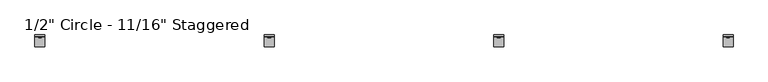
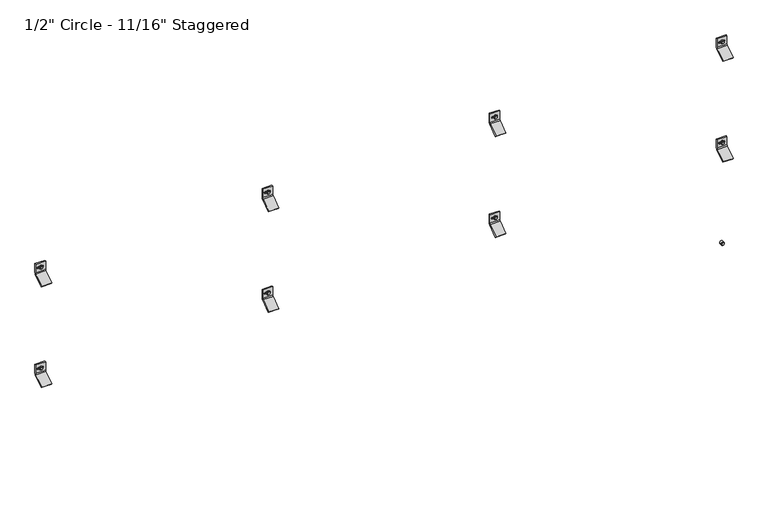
"""IFC4 building model written with IfcOpenShell, lengths in millimetres: plate geometry."""

from ifc_helpers import new_model, si_unit, point, frame, frame_2d, origin, place, context, project, spatial, polyline, circle_curve, trimmed, segment, composite_curve, outline, extrude, source, transform, mapped, element, save
from ifc_brep_helpers import plane_surface, cylinder_surface, revolved_surface, advanced_brep


def plate_257bfe62(model_context):
    return source(origin(), model_context, "Body", "SolidModel", [
        extrude(outline(polyline([(1395.4295323, 1299.9070034), (1391.0838197, 1302.4160017), (1391.0838197, 1307.4339983), (1395.4295323, 1309.9429966), (1399.7752448, 1307.4339983), (1399.7752448, 1302.4160017), (1395.4295323, 1299.9070034)])), frame((0.0, -58.7607779, 0.0), z_axis=(0.0, 1.0, 0.0), x_axis=(0.0, 0.0, 1.0)), (0.0, 0.0, 1.0), 11.1357779),
        extrude(outline(composite_curve([segment(trimmed(circle_curve(frame_2d((1395.5228392, 1304.925)), 6.35), [point((1395.5228392, 1311.275))], [point((1395.5228392, 1298.575))], False, "CARTESIAN"), True, "CONTINUOUS"), segment(trimmed(circle_curve(frame_2d((1395.5228392, 1304.925)), 6.35), [point((1395.5228392, 1298.575))], [point((1395.5228392, 1311.275))], False, "CARTESIAN"), True, "CONTINUOUS")], self_intersect=False)), frame((0.0, -57.0817743, 0.0), z_axis=(0.0, 1.0, 0.0), x_axis=(0.0, 0.0, 1.0)), (0.0, 0.0, 1.0), 9.4567743),
        advanced_brep(
        [(1285.875, -47.625, 1378.2802202), (1285.875, -51.2819443, 1370.6181877), (1285.875, -89.5163624, 1343.84616), (1285.875, -92.9330442, 1347.2628418), (1285.875, -54.3526876, 1374.2770983), (1285.875, -52.4002, 1378.2802911), (1285.875, -52.4002, 1412.4729053), (1285.875, -47.625, 1412.4729053), (1323.975, -47.625, 1378.2802202), (1323.975, -47.625, 1412.4729053), (1323.975, -52.4002, 1412.4729053), (1323.975, -52.4002, 1378.2802911), (1323.975, -54.3526876, 1374.2770983), (1323.975, -92.9330442, 1347.2628418), (1323.975, -89.5163624, 1343.84616), (1323.975, -51.2819443, 1370.6181877), (1311.6661889, -52.4002, 1398.4276891), (1311.6661889, -52.4002, 1392.0776891), (1295.4383287, -52.4002, 1392.0776891), (1295.4383287, -52.4002, 1398.4276891), (1311.6661889, -47.625, 1392.0776891), (1311.6661889, -47.625, 1398.4276891), (1295.4383287, -47.625, 1398.4276891), (1295.4383287, -47.625, 1392.0776891)],
        [
            (0, 1, circle_curve(frame((1285.875, -57.4802202, 1378.2802202), z_axis=(-1.0, 0.0, 0.0), x_axis=(0.0, -1.0, 0.0)), 9.8552202)),
            (1, 2),
            (2, 3),
            (3, 4),
            (4, 5, circle_curve(frame((1285.875, -57.4803246, 1378.2802911), z_axis=(1.0, 0.0, 0.0), x_axis=(0.0, -1.0, 0.0)), 5.0801246)),
            (5, 6),
            (6, 7),
            (7, 0),
            (8, 9),
            (9, 10),
            (10, 11),
            (11, 12, circle_curve(frame((1323.975, -57.4803246, 1378.2802911), z_axis=(-1.0, 0.0, 0.0), x_axis=(0.0, -1.0, 0.0)), 5.0801246)),
            (12, 13),
            (13, 14),
            (14, 15),
            (15, 8, circle_curve(frame((1323.975, -57.4802202, 1378.2802202), z_axis=(1.0, 0.0, 0.0), x_axis=(0.0, -1.0, 0.0)), 9.8552202)),
            (4, 12),
            (11, 5),
            (10, 6),
            (16, 17, circle_curve(frame((1311.6661889, -52.4002, 1395.2526891), z_axis=(0.0, 1.0, 0.0), x_axis=(0.0, 0.0, -1.0)), 3.175)),
            (17, 18),
            (18, 19, circle_curve(frame((1295.4383287, -52.4002, 1395.2526891), z_axis=(0.0, 1.0, 0.0), x_axis=(0.0, 0.0, -1.0)), 3.175)),
            (19, 16),
            (9, 7),
            (8, 0),
            (20, 21, circle_curve(frame((1311.6661889, -47.625, 1395.2526891), z_axis=(0.0, -1.0, 0.0), x_axis=(0.0, 0.0, -1.0)), 3.175)),
            (21, 22),
            (22, 23, circle_curve(frame((1295.4383287, -47.625, 1395.2526891), z_axis=(0.0, -1.0, 0.0), x_axis=(0.0, 0.0, -1.0)), 3.175)),
            (23, 20),
            (15, 1),
            (20, 17),
            (16, 21),
            (19, 22),
            (18, 23),
            (14, 2),
            (13, 3),
        ],
        [
            plane_surface(frame((1285.875, -67.3354404, 1378.2802202), z_axis=(-1.0, 0.0, 0.0), x_axis=(0.0, 0.0, 1.0))),
            plane_surface(frame((1323.975, -67.3354404, 1378.2802202), z_axis=(1.0, 0.0, 0.0), x_axis=(0.0, 0.0, -1.0))),
            revolved_surface(polyline([(1323.975, -62.5604492, 1378.2802911), (1285.875, -62.5604492, 1378.2802911)]), (1323.975, -57.4803246, 1378.2802911), (1.0, 0.0, 0.0)),
            plane_surface(frame((1285.875, -52.4002, 1378.2802911), z_axis=(0.0, -1.0, 0.0), x_axis=(1.0, 0.0, 0.0))),
            plane_surface(frame((1285.875, -52.4002, 1412.4729053), z_axis=(0.0, 0.0, 1.0), x_axis=(1.0, 0.0, 0.0))),
            plane_surface(frame((1285.875, -47.625, 1412.4729053), z_axis=(0.0, 1.0, 6.99569853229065e-12), x_axis=(1.0, 0.0, 0.0))),
            cylinder_surface(frame((1323.975, -57.4802202, 1378.2802202), z_axis=(-1.0, 0.0, 0.0), x_axis=(0.0, -1.0, 0.0)), 9.8552202),
            revolved_surface(polyline([(1311.6661889, -52.4002, 1392.0776891), (1311.6661889, -47.625, 1392.0776891)]), (1311.6661889, -25.6669948, 1395.2526891), (0.0, -1.0, 0.0)),
            plane_surface(frame((1311.6661889, -86.677982, 1398.4276891), z_axis=(0.0, 0.0, -1.0), x_axis=(0.0, 1.0, 0.0))),
            revolved_surface(polyline([(1295.4383287, -52.4002, 1392.0776891), (1295.4383287, -47.625, 1392.0776891)]), (1295.4383287, -25.6669948, 1395.2526891), (0.0, -1.0, 0.0)),
            plane_surface(frame((1295.4383287, -86.677982, 1392.0776891), z_axis=(-2.7237720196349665e-11, 0.0, 1.0), x_axis=(0.0, 1.0, 0.0))),
            plane_surface(frame((1285.875, -51.2819443, 1370.6181877), z_axis=(0.0, 0.5735764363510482, -0.8191520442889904), x_axis=(1.0, 0.0, 0.0))),
            plane_surface(frame((1285.875, -89.5163624, 1343.84616), z_axis=(0.0, -0.7071067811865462, -0.7071067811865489), x_axis=(1.0, 0.0, 0.0))),
            plane_surface(frame((1285.875, -92.9330442, 1347.2628418), z_axis=(0.0, -0.5735764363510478, 0.8191520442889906), x_axis=(1.0, 0.0, 0.0))),
        ],
        [
            (0, [[1, 2, 3, 4, 5, 6, 7, 8]]),
            (1, [[9, 10, 11, 12, 13, 14, 15, 16]]),
            (2, [[-5, 17, -12, 18]]),
            (3, [[-6, -18, -11, 19], [20, 21, 22, 23]]),
            (4, [[-7, -19, -10, 24]]),
            (5, [[-8, -24, -9, 25], [26, 27, 28, 29]]),
            (6, [[-1, -25, -16, 30]]),
            (7, [[31, -20, 32, -26]]),
            (8, [[-32, -23, 33, -27]]),
            (9, [[-33, -22, 34, -28]]),
            (10, [[-31, -29, -34, -21]]),
            (11, [[-2, -30, -15, 35]]),
            (12, [[-3, -35, -14, 36]]),
            (13, [[-4, -36, -13, -17]]),
        ],
    ),
        extrude(outline(polyline([(1395.4295323, 429.9570034), (1391.0838197, 432.4660017), (1391.0838197, 437.4839983), (1395.4295323, 439.9929966), (1399.7752448, 437.4839983), (1399.7752448, 432.4660017), (1395.4295323, 429.9570034)])), frame((0.0, -58.7607779, 0.0), z_axis=(0.0, 1.0, 0.0), x_axis=(0.0, 0.0, 1.0)), (0.0, 0.0, 1.0), 11.1357779),
        extrude(outline(composite_curve([segment(trimmed(circle_curve(frame_2d((1395.5228392, 434.975)), 6.35), [point((1395.5228392, 441.325))], [point((1395.5228392, 428.625))], False, "CARTESIAN"), True, "CONTINUOUS"), segment(trimmed(circle_curve(frame_2d((1395.5228392, 434.975)), 6.35), [point((1395.5228392, 428.625))], [point((1395.5228392, 441.325))], False, "CARTESIAN"), True, "CONTINUOUS")], self_intersect=False)), frame((0.0, -57.0817743, 0.0), z_axis=(0.0, 1.0, 0.0), x_axis=(0.0, 0.0, 1.0)), (0.0, 0.0, 1.0), 9.4567743),
        advanced_brep(
        [(415.925, -47.625, 1378.2802202), (415.925, -51.2819443, 1370.6181877), (415.925, -89.5163624, 1343.84616), (415.925, -92.9330442, 1347.2628418), (415.925, -54.3526876, 1374.2770983), (415.925, -52.4002, 1378.2802911), (415.925, -52.4002, 1412.4729053), (415.925, -47.625, 1412.4729053), (454.025, -47.625, 1378.2802202), (454.025, -47.625, 1412.4729053), (454.025, -52.4002, 1412.4729053), (454.025, -52.4002, 1378.2802911), (454.025, -54.3526876, 1374.2770983), (454.025, -92.9330442, 1347.2628418), (454.025, -89.5163624, 1343.84616), (454.025, -51.2819443, 1370.6181877), (441.7161889, -52.4002, 1398.4276891), (441.7161889, -52.4002, 1392.0776891), (425.4883287, -52.4002, 1392.0776891), (425.4883287, -52.4002, 1398.4276891), (441.7161889, -47.625, 1392.0776891), (441.7161889, -47.625, 1398.4276891), (425.4883287, -47.625, 1398.4276891), (425.4883287, -47.625, 1392.0776891)],
        [
            (0, 1, circle_curve(frame((415.925, -57.4802202, 1378.2802202), z_axis=(-1.0, 0.0, 0.0), x_axis=(0.0, -1.0, 0.0)), 9.8552202)),
            (1, 2),
            (2, 3),
            (3, 4),
            (4, 5, circle_curve(frame((415.925, -57.4803246, 1378.2802911), z_axis=(1.0, 0.0, 0.0), x_axis=(0.0, -1.0, 0.0)), 5.0801246)),
            (5, 6),
            (6, 7),
            (7, 0),
            (8, 9),
            (9, 10),
            (10, 11),
            (11, 12, circle_curve(frame((454.025, -57.4803246, 1378.2802911), z_axis=(-1.0, 0.0, 0.0), x_axis=(0.0, -1.0, 0.0)), 5.0801246)),
            (12, 13),
            (13, 14),
            (14, 15),
            (15, 8, circle_curve(frame((454.025, -57.4802202, 1378.2802202), z_axis=(1.0, 0.0, 0.0), x_axis=(0.0, -1.0, 0.0)), 9.8552202)),
            (4, 12),
            (11, 5),
            (10, 6),
            (16, 17, circle_curve(frame((441.7161889, -52.4002, 1395.2526891), z_axis=(0.0, 1.0, 0.0), x_axis=(0.0, 0.0, -1.0)), 3.175)),
            (17, 18),
            (18, 19, circle_curve(frame((425.4883287, -52.4002, 1395.2526891), z_axis=(0.0, 1.0, 0.0), x_axis=(0.0, 0.0, -1.0)), 3.175)),
            (19, 16),
            (9, 7),
            (8, 0),
            (20, 21, circle_curve(frame((441.7161889, -47.625, 1395.2526891), z_axis=(0.0, -1.0, 0.0), x_axis=(0.0, 0.0, -1.0)), 3.175)),
            (21, 22),
            (22, 23, circle_curve(frame((425.4883287, -47.625, 1395.2526891), z_axis=(0.0, -1.0, 0.0), x_axis=(0.0, 0.0, -1.0)), 3.175)),
            (23, 20),
            (15, 1),
            (20, 17),
            (16, 21),
            (19, 22),
            (18, 23),
            (14, 2),
            (13, 3),
        ],
        [
            plane_surface(frame((415.925, -67.3354404, 1378.2802202), z_axis=(-1.0, 0.0, 0.0), x_axis=(0.0, 0.0, 1.0))),
            plane_surface(frame((454.025, -67.3354404, 1378.2802202), z_axis=(1.0, 0.0, 0.0), x_axis=(0.0, 0.0, -1.0))),
            revolved_surface(polyline([(454.025, -62.5604492, 1378.2802911), (415.925, -62.5604492, 1378.2802911)]), (454.025, -57.4803246, 1378.2802911), (1.0, 0.0, 0.0)),
            plane_surface(frame((415.925, -52.4002, 1378.2802911), z_axis=(0.0, -1.0, 0.0), x_axis=(1.0, 0.0, 0.0))),
            plane_surface(frame((415.925, -52.4002, 1412.4729053), z_axis=(0.0, 0.0, 1.0), x_axis=(1.0, 0.0, 0.0))),
            plane_surface(frame((415.925, -47.625, 1412.4729053), z_axis=(0.0, 1.0, 6.99569853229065e-12), x_axis=(1.0, 0.0, 0.0))),
            cylinder_surface(frame((454.025, -57.4802202, 1378.2802202), z_axis=(-1.0, 0.0, 0.0), x_axis=(0.0, -1.0, 0.0)), 9.8552202),
            revolved_surface(polyline([(441.7161889, -52.4002, 1392.0776891), (441.7161889, -47.625, 1392.0776891)]), (441.7161889, -25.6669948, 1395.2526891), (0.0, -1.0, 0.0)),
            plane_surface(frame((441.7161889, -86.677982, 1398.4276891), z_axis=(0.0, 0.0, -1.0), x_axis=(0.0, 1.0, 0.0))),
            revolved_surface(polyline([(425.4883287, -52.4002, 1392.0776891), (425.4883287, -47.625, 1392.0776891)]), (425.4883287, -25.6669948, 1395.2526891), (0.0, -1.0, 0.0)),
            plane_surface(frame((425.4883287, -86.677982, 1392.0776891), z_axis=(-2.7237720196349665e-11, 0.0, 1.0), x_axis=(0.0, 1.0, 0.0))),
            plane_surface(frame((415.925, -51.2819443, 1370.6181877), z_axis=(0.0, 0.5735764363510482, -0.8191520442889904), x_axis=(1.0, 0.0, 0.0))),
            plane_surface(frame((415.925, -89.5163624, 1343.84616), z_axis=(0.0, -0.7071067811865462, -0.7071067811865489), x_axis=(1.0, 0.0, 0.0))),
            plane_surface(frame((415.925, -92.9330442, 1347.2628418), z_axis=(0.0, -0.5735764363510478, 0.8191520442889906), x_axis=(1.0, 0.0, 0.0))),
        ],
        [
            (0, [[1, 2, 3, 4, 5, 6, 7, 8]]),
            (1, [[9, 10, 11, 12, 13, 14, 15, 16]]),
            (2, [[-5, 17, -12, 18]]),
            (3, [[-6, -18, -11, 19], [20, 21, 22, 23]]),
            (4, [[-7, -19, -10, 24]]),
            (5, [[-8, -24, -9, 25], [26, 27, 28, 29]]),
            (6, [[-1, -25, -16, 30]]),
            (7, [[31, -20, 32, -26]]),
            (8, [[-32, -23, 33, -27]]),
            (9, [[-33, -22, 34, -28]]),
            (10, [[-31, -29, -34, -21]]),
            (11, [[-2, -30, -15, 35]]),
            (12, [[-3, -35, -14, 36]]),
            (13, [[-4, -36, -13, -17]]),
        ],
    ),
        extrude(outline(polyline([(1395.4295323, -439.9929966), (1391.0838197, -437.4839983), (1391.0838197, -432.4660017), (1395.4295323, -429.9570034), (1399.7752448, -432.4660017), (1399.7752448, -437.4839983), (1395.4295323, -439.9929966)])), frame((0.0, -58.7607779, 0.0), z_axis=(0.0, 1.0, 0.0), x_axis=(0.0, 0.0, 1.0)), (0.0, 0.0, 1.0), 11.1357779),
        extrude(outline(composite_curve([segment(trimmed(circle_curve(frame_2d((1395.5228392, -434.975)), 6.35), [point((1395.5228392, -428.625))], [point((1395.5228392, -441.325))], False, "CARTESIAN"), True, "CONTINUOUS"), segment(trimmed(circle_curve(frame_2d((1395.5228392, -434.975)), 6.35), [point((1395.5228392, -441.325))], [point((1395.5228392, -428.625))], False, "CARTESIAN"), True, "CONTINUOUS")], self_intersect=False)), frame((0.0, -57.0817743, 0.0), z_axis=(0.0, 1.0, 0.0), x_axis=(0.0, 0.0, 1.0)), (0.0, 0.0, 1.0), 9.4567743),
        advanced_brep(
        [(-454.025, -47.625, 1378.2802202), (-454.025, -51.2819443, 1370.6181877), (-454.025, -89.5163624, 1343.84616), (-454.025, -92.9330442, 1347.2628418), (-454.025, -54.3526876, 1374.2770983), (-454.025, -52.4002, 1378.2802911), (-454.025, -52.4002, 1412.4729053), (-454.025, -47.625, 1412.4729053), (-415.925, -47.625, 1378.2802202), (-415.925, -47.625, 1412.4729053), (-415.925, -52.4002, 1412.4729053), (-415.925, -52.4002, 1378.2802911), (-415.925, -54.3526876, 1374.2770983), (-415.925, -92.9330442, 1347.2628418), (-415.925, -89.5163624, 1343.84616), (-415.925, -51.2819443, 1370.6181877), (-428.2338111, -52.4002, 1398.4276891), (-428.2338111, -52.4002, 1392.0776891), (-444.4616713, -52.4002, 1392.0776891), (-444.4616713, -52.4002, 1398.4276891), (-428.2338111, -47.625, 1392.0776891), (-428.2338111, -47.625, 1398.4276891), (-444.4616713, -47.625, 1398.4276891), (-444.4616713, -47.625, 1392.0776891)],
        [
            (0, 1, circle_curve(frame((-454.025, -57.4802202, 1378.2802202), z_axis=(-1.0, 0.0, 0.0), x_axis=(0.0, -1.0, 0.0)), 9.8552202)),
            (1, 2),
            (2, 3),
            (3, 4),
            (4, 5, circle_curve(frame((-454.025, -57.4803246, 1378.2802911), z_axis=(1.0, 0.0, 0.0), x_axis=(0.0, -1.0, 0.0)), 5.0801246)),
            (5, 6),
            (6, 7),
            (7, 0),
            (8, 9),
            (9, 10),
            (10, 11),
            (11, 12, circle_curve(frame((-415.925, -57.4803246, 1378.2802911), z_axis=(-1.0, 0.0, 0.0), x_axis=(0.0, -1.0, 0.0)), 5.0801246)),
            (12, 13),
            (13, 14),
            (14, 15),
            (15, 8, circle_curve(frame((-415.925, -57.4802202, 1378.2802202), z_axis=(1.0, 0.0, 0.0), x_axis=(0.0, -1.0, 0.0)), 9.8552202)),
            (4, 12),
            (11, 5),
            (10, 6),
            (16, 17, circle_curve(frame((-428.2338111, -52.4002, 1395.2526891), z_axis=(0.0, 1.0, 0.0), x_axis=(0.0, 0.0, -1.0)), 3.175)),
            (17, 18),
            (18, 19, circle_curve(frame((-444.4616713, -52.4002, 1395.2526891), z_axis=(0.0, 1.0, 0.0), x_axis=(0.0, 0.0, -1.0)), 3.175)),
            (19, 16),
            (9, 7),
            (8, 0),
            (20, 21, circle_curve(frame((-428.2338111, -47.625, 1395.2526891), z_axis=(0.0, -1.0, 0.0), x_axis=(0.0, 0.0, -1.0)), 3.175)),
            (21, 22),
            (22, 23, circle_curve(frame((-444.4616713, -47.625, 1395.2526891), z_axis=(0.0, -1.0, 0.0), x_axis=(0.0, 0.0, -1.0)), 3.175)),
            (23, 20),
            (15, 1),
            (20, 17),
            (16, 21),
            (19, 22),
            (18, 23),
            (14, 2),
            (13, 3),
        ],
        [
            plane_surface(frame((-454.025, -67.3354404, 1378.2802202), z_axis=(-1.0, 0.0, 0.0), x_axis=(0.0, 0.0, 1.0))),
            plane_surface(frame((-415.925, -67.3354404, 1378.2802202), z_axis=(1.0, 0.0, 0.0), x_axis=(0.0, 0.0, -1.0))),
            revolved_surface(polyline([(-415.925, -62.5604492, 1378.2802911), (-454.025, -62.5604492, 1378.2802911)]), (-415.925, -57.4803246, 1378.2802911), (1.0, 0.0, 0.0)),
            plane_surface(frame((-454.025, -52.4002, 1378.2802911), z_axis=(0.0, -1.0, 0.0), x_axis=(1.0, 0.0, 0.0))),
            plane_surface(frame((-454.025, -52.4002, 1412.4729053), z_axis=(0.0, 0.0, 1.0), x_axis=(1.0, 0.0, 0.0))),
            plane_surface(frame((-454.025, -47.625, 1412.4729053), z_axis=(0.0, 1.0, 6.99569853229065e-12), x_axis=(1.0, 0.0, 0.0))),
            cylinder_surface(frame((-415.925, -57.4802202, 1378.2802202), z_axis=(-1.0, 0.0, 0.0), x_axis=(0.0, -1.0, 0.0)), 9.8552202),
            revolved_surface(polyline([(-428.2338111, -52.4002, 1392.0776891), (-428.2338111, -47.625, 1392.0776891)]), (-428.2338111, -25.6669948, 1395.2526891), (0.0, -1.0, 0.0)),
            plane_surface(frame((-428.2338111, -86.677982, 1398.4276891), z_axis=(0.0, 0.0, -1.0), x_axis=(0.0, 1.0, 0.0))),
            revolved_surface(polyline([(-444.4616713, -52.4002, 1392.0776891), (-444.4616713, -47.625, 1392.0776891)]), (-444.4616713, -25.6669948, 1395.2526891), (0.0, -1.0, 0.0)),
            plane_surface(frame((-444.4616713, -86.677982, 1392.0776891), z_axis=(-2.7237720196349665e-11, 0.0, 1.0), x_axis=(0.0, 1.0, 0.0))),
            plane_surface(frame((-454.025, -51.2819443, 1370.6181877), z_axis=(0.0, 0.5735764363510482, -0.8191520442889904), x_axis=(1.0, 0.0, 0.0))),
            plane_surface(frame((-454.025, -89.5163624, 1343.84616), z_axis=(0.0, -0.7071067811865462, -0.7071067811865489), x_axis=(1.0, 0.0, 0.0))),
            plane_surface(frame((-454.025, -92.9330442, 1347.2628418), z_axis=(0.0, -0.5735764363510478, 0.8191520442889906), x_axis=(1.0, 0.0, 0.0))),
        ],
        [
            (0, [[1, 2, 3, 4, 5, 6, 7, 8]]),
            (1, [[9, 10, 11, 12, 13, 14, 15, 16]]),
            (2, [[-5, 17, -12, 18]]),
            (3, [[-6, -18, -11, 19], [20, 21, 22, 23]]),
            (4, [[-7, -19, -10, 24]]),
            (5, [[-8, -24, -9, 25], [26, 27, 28, 29]]),
            (6, [[-1, -25, -16, 30]]),
            (7, [[31, -20, 32, -26]]),
            (8, [[-32, -23, 33, -27]]),
            (9, [[-33, -22, 34, -28]]),
            (10, [[-31, -29, -34, -21]]),
            (11, [[-2, -30, -15, 35]]),
            (12, [[-3, -35, -14, 36]]),
            (13, [[-4, -36, -13, -17]]),
        ],
    ),
        extrude(outline(polyline([(1395.4295323, -1309.9429966), (1391.0838197, -1307.4339983), (1391.0838197, -1302.4160017), (1395.4295323, -1299.9070034), (1399.7752448, -1302.4160017), (1399.7752448, -1307.4339983), (1395.4295323, -1309.9429966)])), frame((0.0, -58.7607779, 0.0), z_axis=(0.0, 1.0, 0.0), x_axis=(0.0, 0.0, 1.0)), (0.0, 0.0, 1.0), 11.1357779),
        extrude(outline(composite_curve([segment(trimmed(circle_curve(frame_2d((1395.5228392, -1304.925)), 6.35), [point((1395.5228392, -1298.575))], [point((1395.5228392, -1311.275))], False, "CARTESIAN"), True, "CONTINUOUS"), segment(trimmed(circle_curve(frame_2d((1395.5228392, -1304.925)), 6.35), [point((1395.5228392, -1311.275))], [point((1395.5228392, -1298.575))], False, "CARTESIAN"), True, "CONTINUOUS")], self_intersect=False)), frame((0.0, -57.0817743, 0.0), z_axis=(0.0, 1.0, 0.0), x_axis=(0.0, 0.0, 1.0)), (0.0, 0.0, 1.0), 9.4567743),
        advanced_brep(
        [(-1323.975, -47.625, 1378.2802202), (-1323.975, -51.2819443, 1370.6181877), (-1323.975, -89.5163624, 1343.84616), (-1323.975, -92.9330442, 1347.2628418), (-1323.975, -54.3526876, 1374.2770983), (-1323.975, -52.4002, 1378.2802911), (-1323.975, -52.4002, 1412.4729053), (-1323.975, -47.625, 1412.4729053), (-1285.875, -47.625, 1378.2802202), (-1285.875, -47.625, 1412.4729053), (-1285.875, -52.4002, 1412.4729053), (-1285.875, -52.4002, 1378.2802911), (-1285.875, -54.3526876, 1374.2770983), (-1285.875, -92.9330442, 1347.2628418), (-1285.875, -89.5163624, 1343.84616), (-1285.875, -51.2819443, 1370.6181877), (-1298.1838111, -52.4002, 1398.4276891), (-1298.1838111, -52.4002, 1392.0776891), (-1314.4116713, -52.4002, 1392.0776891), (-1314.4116713, -52.4002, 1398.4276891), (-1298.1838111, -47.625, 1392.0776891), (-1298.1838111, -47.625, 1398.4276891), (-1314.4116713, -47.625, 1398.4276891), (-1314.4116713, -47.625, 1392.0776891)],
        [
            (0, 1, circle_curve(frame((-1323.975, -57.4802202, 1378.2802202), z_axis=(-1.0, 0.0, 0.0), x_axis=(0.0, -1.0, 0.0)), 9.8552202)),
            (1, 2),
            (2, 3),
            (3, 4),
            (4, 5, circle_curve(frame((-1323.975, -57.4803246, 1378.2802911), z_axis=(1.0, 0.0, 0.0), x_axis=(0.0, -1.0, 0.0)), 5.0801246)),
            (5, 6),
            (6, 7),
            (7, 0),
            (8, 9),
            (9, 10),
            (10, 11),
            (11, 12, circle_curve(frame((-1285.875, -57.4803246, 1378.2802911), z_axis=(-1.0, 0.0, 0.0), x_axis=(0.0, -1.0, 0.0)), 5.0801246)),
            (12, 13),
            (13, 14),
            (14, 15),
            (15, 8, circle_curve(frame((-1285.875, -57.4802202, 1378.2802202), z_axis=(1.0, 0.0, 0.0), x_axis=(0.0, -1.0, 0.0)), 9.8552202)),
            (4, 12),
            (11, 5),
            (10, 6),
            (16, 17, circle_curve(frame((-1298.1838111, -52.4002, 1395.2526891), z_axis=(0.0, 1.0, 0.0), x_axis=(0.0, 0.0, -1.0)), 3.175)),
            (17, 18),
            (18, 19, circle_curve(frame((-1314.4116713, -52.4002, 1395.2526891), z_axis=(0.0, 1.0, 0.0), x_axis=(0.0, 0.0, -1.0)), 3.175)),
            (19, 16),
            (9, 7),
            (8, 0),
            (20, 21, circle_curve(frame((-1298.1838111, -47.625, 1395.2526891), z_axis=(0.0, -1.0, 0.0), x_axis=(0.0, 0.0, -1.0)), 3.175)),
            (21, 22),
            (22, 23, circle_curve(frame((-1314.4116713, -47.625, 1395.2526891), z_axis=(0.0, -1.0, 0.0), x_axis=(0.0, 0.0, -1.0)), 3.175)),
            (23, 20),
            (15, 1),
            (20, 17),
            (16, 21),
            (19, 22),
            (18, 23),
            (14, 2),
            (13, 3),
        ],
        [
            plane_surface(frame((-1323.975, -67.3354404, 1378.2802202), z_axis=(-1.0, 0.0, 0.0), x_axis=(0.0, 0.0, 1.0))),
            plane_surface(frame((-1285.875, -67.3354404, 1378.2802202), z_axis=(1.0, 0.0, 0.0), x_axis=(0.0, 0.0, -1.0))),
            revolved_surface(polyline([(-1285.875, -62.5604492, 1378.2802911), (-1323.975, -62.5604492, 1378.2802911)]), (-1285.875, -57.4803246, 1378.2802911), (1.0, 0.0, 0.0)),
            plane_surface(frame((-1323.975, -52.4002, 1378.2802911), z_axis=(0.0, -1.0, 0.0), x_axis=(1.0, 0.0, 0.0))),
            plane_surface(frame((-1323.975, -52.4002, 1412.4729053), z_axis=(0.0, 0.0, 1.0), x_axis=(1.0, 0.0, 0.0))),
            plane_surface(frame((-1323.975, -47.625, 1412.4729053), z_axis=(0.0, 1.0, 6.99569853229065e-12), x_axis=(1.0, 0.0, 0.0))),
            cylinder_surface(frame((-1285.875, -57.4802202, 1378.2802202), z_axis=(-1.0, 0.0, 0.0), x_axis=(0.0, -1.0, 0.0)), 9.8552202),
            revolved_surface(polyline([(-1298.1838111, -52.4002, 1392.0776891), (-1298.1838111, -47.625, 1392.0776891)]), (-1298.1838111, -25.6669948, 1395.2526891), (0.0, -1.0, 0.0)),
            plane_surface(frame((-1298.1838111, -86.677982, 1398.4276891), z_axis=(0.0, 0.0, -1.0), x_axis=(0.0, 1.0, 0.0))),
            revolved_surface(polyline([(-1314.4116713, -52.4002, 1392.0776891), (-1314.4116713, -47.625, 1392.0776891)]), (-1314.4116713, -25.6669948, 1395.2526891), (0.0, -1.0, 0.0)),
            plane_surface(frame((-1314.4116713, -86.677982, 1392.0776891), z_axis=(-2.7237720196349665e-11, 0.0, 1.0), x_axis=(0.0, 1.0, 0.0))),
            plane_surface(frame((-1323.975, -51.2819443, 1370.6181877), z_axis=(0.0, 0.5735764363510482, -0.8191520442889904), x_axis=(1.0, 0.0, 0.0))),
            plane_surface(frame((-1323.975, -89.5163624, 1343.84616), z_axis=(0.0, -0.7071067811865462, -0.7071067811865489), x_axis=(1.0, 0.0, 0.0))),
            plane_surface(frame((-1323.975, -92.9330442, 1347.2628418), z_axis=(0.0, -0.5735764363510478, 0.8191520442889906), x_axis=(1.0, 0.0, 0.0))),
        ],
        [
            (0, [[1, 2, 3, 4, 5, 6, 7, 8]]),
            (1, [[9, 10, 11, 12, 13, 14, 15, 16]]),
            (2, [[-5, 17, -12, 18]]),
            (3, [[-6, -18, -11, 19], [20, 21, 22, 23]]),
            (4, [[-7, -19, -10, 24]]),
            (5, [[-8, -24, -9, 25], [26, 27, 28, 29]]),
            (6, [[-1, -25, -16, 30]]),
            (7, [[31, -20, 32, -26]]),
            (8, [[-32, -23, 33, -27]]),
            (9, [[-33, -22, 34, -28]]),
            (10, [[-31, -29, -34, -21]]),
            (11, [[-2, -30, -15, 35]]),
            (12, [[-3, -35, -14, 36]]),
            (13, [[-4, -36, -13, -17]]),
        ],
    ),
        extrude(outline(polyline([(986.9128656, 1299.9070034), (982.5671531, 1302.4160017), (982.5671531, 1307.4339983), (986.9128656, 1309.9429966), (991.2585781, 1307.4339983), (991.2585781, 1302.4160017), (986.9128656, 1299.9070034)])), frame((0.0, -58.7607779, 0.0), z_axis=(0.0, 1.0, 0.0), x_axis=(0.0, 0.0, 1.0)), (0.0, 0.0, 1.0), 11.1357779),
        extrude(outline(composite_curve([segment(trimmed(circle_curve(frame_2d((987.0061726, 1304.925)), 6.35), [point((987.0061726, 1311.275))], [point((987.0061726, 1298.575))], False, "CARTESIAN"), True, "CONTINUOUS"), segment(trimmed(circle_curve(frame_2d((987.0061726, 1304.925)), 6.35), [point((987.0061726, 1298.575))], [point((987.0061726, 1311.275))], False, "CARTESIAN"), True, "CONTINUOUS")], self_intersect=False)), frame((0.0, -57.0817743, 0.0), z_axis=(0.0, 1.0, 0.0), x_axis=(0.0, 0.0, 1.0)), (0.0, 0.0, 1.0), 9.4567743),
        advanced_brep(
        [(1285.875, -47.625, 969.7635535), (1285.875, -51.2819443, 962.1015211), (1285.875, -89.5163624, 935.3294933), (1285.875, -92.9330442, 938.7461751), (1285.875, -54.3526876, 965.7604316), (1285.875, -52.4002, 969.7636244), (1285.875, -52.4002, 1003.9562386), (1285.875, -47.625, 1003.9562386), (1323.975, -47.625, 969.7635535), (1323.975, -47.625, 1003.9562386), (1323.975, -52.4002, 1003.9562386), (1323.975, -52.4002, 969.7636244), (1323.975, -54.3526876, 965.7604316), (1323.975, -92.9330442, 938.7461751), (1323.975, -89.5163624, 935.3294933), (1323.975, -51.2819443, 962.1015211), (1311.6661889, -52.4002, 989.9110224), (1311.6661889, -52.4002, 983.5610224), (1295.4383287, -52.4002, 983.5610224), (1295.4383287, -52.4002, 989.9110224), (1311.6661889, -47.625, 983.5610224), (1311.6661889, -47.625, 989.9110224), (1295.4383287, -47.625, 989.9110224), (1295.4383287, -47.625, 983.5610224)],
        [
            (0, 1, circle_curve(frame((1285.875, -57.4802202, 969.7635535), z_axis=(-1.0, 0.0, 0.0), x_axis=(0.0, -1.0, 0.0)), 9.8552202)),
            (1, 2),
            (2, 3),
            (3, 4),
            (4, 5, circle_curve(frame((1285.875, -57.4803246, 969.7636244), z_axis=(1.0, 0.0, 0.0), x_axis=(0.0, -1.0, 0.0)), 5.0801246)),
            (5, 6),
            (6, 7),
            (7, 0),
            (8, 9),
            (9, 10),
            (10, 11),
            (11, 12, circle_curve(frame((1323.975, -57.4803246, 969.7636244), z_axis=(-1.0, 0.0, 0.0), x_axis=(0.0, -1.0, 0.0)), 5.0801246)),
            (12, 13),
            (13, 14),
            (14, 15),
            (15, 8, circle_curve(frame((1323.975, -57.4802202, 969.7635535), z_axis=(1.0, 0.0, 0.0), x_axis=(0.0, -1.0, 0.0)), 9.8552202)),
            (4, 12),
            (11, 5),
            (10, 6),
            (16, 17, circle_curve(frame((1311.6661889, -52.4002, 986.7360224), z_axis=(0.0, 1.0, 0.0), x_axis=(0.0, 0.0, -1.0)), 3.175)),
            (17, 18),
            (18, 19, circle_curve(frame((1295.4383287, -52.4002, 986.7360224), z_axis=(0.0, 1.0, 0.0), x_axis=(0.0, 0.0, -1.0)), 3.175)),
            (19, 16),
            (9, 7),
            (8, 0),
            (20, 21, circle_curve(frame((1311.6661889, -47.625, 986.7360224), z_axis=(0.0, -1.0, 0.0), x_axis=(0.0, 0.0, -1.0)), 3.175)),
            (21, 22),
            (22, 23, circle_curve(frame((1295.4383287, -47.625, 986.7360224), z_axis=(0.0, -1.0, 0.0), x_axis=(0.0, 0.0, -1.0)), 3.175)),
            (23, 20),
            (15, 1),
            (20, 17),
            (16, 21),
            (19, 22),
            (18, 23),
            (14, 2),
            (13, 3),
        ],
        [
            plane_surface(frame((1285.875, -67.3354404, 969.7635535), z_axis=(-1.0, 0.0, 0.0), x_axis=(0.0, 0.0, 1.0))),
            plane_surface(frame((1323.975, -67.3354404, 969.7635535), z_axis=(1.0, 0.0, 0.0), x_axis=(0.0, 0.0, -1.0))),
            revolved_surface(polyline([(1323.975, -62.5604492, 969.7636244), (1285.875, -62.5604492, 969.7636244)]), (1323.975, -57.4803246, 969.7636244), (1.0, 0.0, 0.0)),
            plane_surface(frame((1285.875, -52.4002, 969.7636244), z_axis=(0.0, -1.0, 0.0), x_axis=(1.0, 0.0, 0.0))),
            plane_surface(frame((1285.875, -52.4002, 1003.9562386), z_axis=(0.0, 0.0, 1.0), x_axis=(1.0, 0.0, 0.0))),
            plane_surface(frame((1285.875, -47.625, 1003.9562386), z_axis=(0.0, 1.0, 6.99569853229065e-12), x_axis=(1.0, 0.0, 0.0))),
            cylinder_surface(frame((1323.975, -57.4802202, 969.7635535), z_axis=(-1.0, 0.0, 0.0), x_axis=(0.0, -1.0, 0.0)), 9.8552202),
            revolved_surface(polyline([(1311.6661889, -52.4002, 983.5610224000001), (1311.6661889, -47.625, 983.5610224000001)]), (1311.6661889, -25.6669948, 986.7360224), (0.0, -1.0, 0.0)),
            plane_surface(frame((1311.6661889, -86.677982, 989.9110224), z_axis=(0.0, 0.0, -1.0), x_axis=(0.0, 1.0, 0.0))),
            revolved_surface(polyline([(1295.4383287, -52.4002, 983.5610224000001), (1295.4383287, -47.625, 983.5610224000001)]), (1295.4383287, -25.6669948, 986.7360224), (0.0, -1.0, 0.0)),
            plane_surface(frame((1295.4383287, -86.677982, 983.5610224), z_axis=(-2.7237766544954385e-11, 0.0, 1.0), x_axis=(0.0, 1.0, 0.0))),
            plane_surface(frame((1285.875, -51.2819443, 962.1015211), z_axis=(0.0, 0.5735764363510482, -0.8191520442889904), x_axis=(1.0, 0.0, 0.0))),
            plane_surface(frame((1285.875, -89.5163624, 935.3294933), z_axis=(0.0, -0.7071067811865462, -0.7071067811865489), x_axis=(1.0, 0.0, 0.0))),
            plane_surface(frame((1285.875, -92.9330442, 938.7461751), z_axis=(0.0, -0.5735764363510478, 0.8191520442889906), x_axis=(1.0, 0.0, 0.0))),
        ],
        [
            (0, [[1, 2, 3, 4, 5, 6, 7, 8]]),
            (1, [[9, 10, 11, 12, 13, 14, 15, 16]]),
            (2, [[-5, 17, -12, 18]]),
            (3, [[-6, -18, -11, 19], [20, 21, 22, 23]]),
            (4, [[-7, -19, -10, 24]]),
            (5, [[-8, -24, -9, 25], [26, 27, 28, 29]]),
            (6, [[-1, -25, -16, 30]]),
            (7, [[31, -20, 32, -26]]),
            (8, [[-32, -23, 33, -27]]),
            (9, [[-33, -22, 34, -28]]),
            (10, [[-31, -29, -34, -21]]),
            (11, [[-2, -30, -15, 35]]),
            (12, [[-3, -35, -14, 36]]),
            (13, [[-4, -36, -13, -17]]),
        ],
    ),
        extrude(outline(polyline([(986.9128656, 429.9570034), (982.5671531, 432.4660017), (982.5671531, 437.4839983), (986.9128656, 439.9929966), (991.2585781, 437.4839983), (991.2585781, 432.4660017), (986.9128656, 429.9570034)])), frame((0.0, -58.7607779, 0.0), z_axis=(0.0, 1.0, 0.0), x_axis=(0.0, 0.0, 1.0)), (0.0, 0.0, 1.0), 11.1357779),
        extrude(outline(composite_curve([segment(trimmed(circle_curve(frame_2d((987.0061726, 434.975)), 6.35), [point((987.0061726, 441.325))], [point((987.0061726, 428.625))], False, "CARTESIAN"), True, "CONTINUOUS"), segment(trimmed(circle_curve(frame_2d((987.0061726, 434.975)), 6.35), [point((987.0061726, 428.625))], [point((987.0061726, 441.325))], False, "CARTESIAN"), True, "CONTINUOUS")], self_intersect=False)), frame((0.0, -57.0817743, 0.0), z_axis=(0.0, 1.0, 0.0), x_axis=(0.0, 0.0, 1.0)), (0.0, 0.0, 1.0), 9.4567743),
        advanced_brep(
        [(415.925, -47.625, 969.7635535), (415.925, -51.2819443, 962.1015211), (415.925, -89.5163624, 935.3294933), (415.925, -92.9330442, 938.7461751), (415.925, -54.3526876, 965.7604316), (415.925, -52.4002, 969.7636244), (415.925, -52.4002, 1003.9562386), (415.925, -47.625, 1003.9562386), (454.025, -47.625, 969.7635535), (454.025, -47.625, 1003.9562386), (454.025, -52.4002, 1003.9562386), (454.025, -52.4002, 969.7636244), (454.025, -54.3526876, 965.7604316), (454.025, -92.9330442, 938.7461751), (454.025, -89.5163624, 935.3294933), (454.025, -51.2819443, 962.1015211), (441.7161889, -52.4002, 989.9110224), (441.7161889, -52.4002, 983.5610224), (425.4883287, -52.4002, 983.5610224), (425.4883287, -52.4002, 989.9110224), (441.7161889, -47.625, 983.5610224), (441.7161889, -47.625, 989.9110224), (425.4883287, -47.625, 989.9110224), (425.4883287, -47.625, 983.5610224)],
        [
            (0, 1, circle_curve(frame((415.925, -57.4802202, 969.7635535), z_axis=(-1.0, 0.0, 0.0), x_axis=(0.0, -1.0, 0.0)), 9.8552202)),
            (1, 2),
            (2, 3),
            (3, 4),
            (4, 5, circle_curve(frame((415.925, -57.4803246, 969.7636244), z_axis=(1.0, 0.0, 0.0), x_axis=(0.0, -1.0, 0.0)), 5.0801246)),
            (5, 6),
            (6, 7),
            (7, 0),
            (8, 9),
            (9, 10),
            (10, 11),
            (11, 12, circle_curve(frame((454.025, -57.4803246, 969.7636244), z_axis=(-1.0, 0.0, 0.0), x_axis=(0.0, -1.0, 0.0)), 5.0801246)),
            (12, 13),
            (13, 14),
            (14, 15),
            (15, 8, circle_curve(frame((454.025, -57.4802202, 969.7635535), z_axis=(1.0, 0.0, 0.0), x_axis=(0.0, -1.0, 0.0)), 9.8552202)),
            (4, 12),
            (11, 5),
            (10, 6),
            (16, 17, circle_curve(frame((441.7161889, -52.4002, 986.7360224), z_axis=(0.0, 1.0, 0.0), x_axis=(0.0, 0.0, -1.0)), 3.175)),
            (17, 18),
            (18, 19, circle_curve(frame((425.4883287, -52.4002, 986.7360224), z_axis=(0.0, 1.0, 0.0), x_axis=(0.0, 0.0, -1.0)), 3.175)),
            (19, 16),
            (9, 7),
            (8, 0),
            (20, 21, circle_curve(frame((441.7161889, -47.625, 986.7360224), z_axis=(0.0, -1.0, 0.0), x_axis=(0.0, 0.0, -1.0)), 3.175)),
            (21, 22),
            (22, 23, circle_curve(frame((425.4883287, -47.625, 986.7360224), z_axis=(0.0, -1.0, 0.0), x_axis=(0.0, 0.0, -1.0)), 3.175)),
            (23, 20),
            (15, 1),
            (20, 17),
            (16, 21),
            (19, 22),
            (18, 23),
            (14, 2),
            (13, 3),
        ],
        [
            plane_surface(frame((415.925, -67.3354404, 969.7635535), z_axis=(-1.0, 0.0, 0.0), x_axis=(0.0, 0.0, 1.0))),
            plane_surface(frame((454.025, -67.3354404, 969.7635535), z_axis=(1.0, 0.0, 0.0), x_axis=(0.0, 0.0, -1.0))),
            revolved_surface(polyline([(454.025, -62.5604492, 969.7636244), (415.925, -62.5604492, 969.7636244)]), (454.025, -57.4803246, 969.7636244), (1.0, 0.0, 0.0)),
            plane_surface(frame((415.925, -52.4002, 969.7636244), z_axis=(0.0, -1.0, 0.0), x_axis=(1.0, 0.0, 0.0))),
            plane_surface(frame((415.925, -52.4002, 1003.9562386), z_axis=(0.0, 0.0, 1.0), x_axis=(1.0, 0.0, 0.0))),
            plane_surface(frame((415.925, -47.625, 1003.9562386), z_axis=(0.0, 1.0, 6.99569853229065e-12), x_axis=(1.0, 0.0, 0.0))),
            cylinder_surface(frame((454.025, -57.4802202, 969.7635535), z_axis=(-1.0, 0.0, 0.0), x_axis=(0.0, -1.0, 0.0)), 9.8552202),
            revolved_surface(polyline([(441.7161889, -52.4002, 983.5610224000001), (441.7161889, -47.625, 983.5610224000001)]), (441.7161889, -25.6669948, 986.7360224), (0.0, -1.0, 0.0)),
            plane_surface(frame((441.7161889, -86.677982, 989.9110224), z_axis=(0.0, 0.0, -1.0), x_axis=(0.0, 1.0, 0.0))),
            revolved_surface(polyline([(425.4883287, -52.4002, 983.5610224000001), (425.4883287, -47.625, 983.5610224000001)]), (425.4883287, -25.6669948, 986.7360224), (0.0, -1.0, 0.0)),
            plane_surface(frame((425.4883287, -86.677982, 983.5610224), z_axis=(-2.7237766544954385e-11, 0.0, 1.0), x_axis=(0.0, 1.0, 0.0))),
            plane_surface(frame((415.925, -51.2819443, 962.1015211), z_axis=(0.0, 0.5735764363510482, -0.8191520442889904), x_axis=(1.0, 0.0, 0.0))),
            plane_surface(frame((415.925, -89.5163624, 935.3294933), z_axis=(0.0, -0.7071067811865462, -0.7071067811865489), x_axis=(1.0, 0.0, 0.0))),
            plane_surface(frame((415.925, -92.9330442, 938.7461751), z_axis=(0.0, -0.5735764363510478, 0.8191520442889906), x_axis=(1.0, 0.0, 0.0))),
        ],
        [
            (0, [[1, 2, 3, 4, 5, 6, 7, 8]]),
            (1, [[9, 10, 11, 12, 13, 14, 15, 16]]),
            (2, [[-5, 17, -12, 18]]),
            (3, [[-6, -18, -11, 19], [20, 21, 22, 23]]),
            (4, [[-7, -19, -10, 24]]),
            (5, [[-8, -24, -9, 25], [26, 27, 28, 29]]),
            (6, [[-1, -25, -16, 30]]),
            (7, [[31, -20, 32, -26]]),
            (8, [[-32, -23, 33, -27]]),
            (9, [[-33, -22, 34, -28]]),
            (10, [[-31, -29, -34, -21]]),
            (11, [[-2, -30, -15, 35]]),
            (12, [[-3, -35, -14, 36]]),
            (13, [[-4, -36, -13, -17]]),
        ],
    ),
        extrude(outline(polyline([(986.9128656, -439.9929966), (982.5671531, -437.4839983), (982.5671531, -432.4660017), (986.9128656, -429.9570034), (991.2585781, -432.4660017), (991.2585781, -437.4839983), (986.9128656, -439.9929966)])), frame((0.0, -58.7607779, 0.0), z_axis=(0.0, 1.0, 0.0), x_axis=(0.0, 0.0, 1.0)), (0.0, 0.0, 1.0), 11.1357779),
        extrude(outline(composite_curve([segment(trimmed(circle_curve(frame_2d((987.0061726, -434.975)), 6.35), [point((987.0061726, -428.625))], [point((987.0061726, -441.325))], False, "CARTESIAN"), True, "CONTINUOUS"), segment(trimmed(circle_curve(frame_2d((987.0061726, -434.975)), 6.35), [point((987.0061726, -441.325))], [point((987.0061726, -428.625))], False, "CARTESIAN"), True, "CONTINUOUS")], self_intersect=False)), frame((0.0, -57.0817743, 0.0), z_axis=(0.0, 1.0, 0.0), x_axis=(0.0, 0.0, 1.0)), (0.0, 0.0, 1.0), 9.4567743),
        advanced_brep(
        [(-454.025, -47.625, 969.7635535), (-454.025, -51.2819443, 962.1015211), (-454.025, -89.5163624, 935.3294933), (-454.025, -92.9330442, 938.7461751), (-454.025, -54.3526876, 965.7604316), (-454.025, -52.4002, 969.7636244), (-454.025, -52.4002, 1003.9562386), (-454.025, -47.625, 1003.9562386), (-415.925, -47.625, 969.7635535), (-415.925, -47.625, 1003.9562386), (-415.925, -52.4002, 1003.9562386), (-415.925, -52.4002, 969.7636244), (-415.925, -54.3526876, 965.7604316), (-415.925, -92.9330442, 938.7461751), (-415.925, -89.5163624, 935.3294933), (-415.925, -51.2819443, 962.1015211), (-428.2338111, -52.4002, 989.9110224), (-428.2338111, -52.4002, 983.5610224), (-444.4616713, -52.4002, 983.5610224), (-444.4616713, -52.4002, 989.9110224), (-428.2338111, -47.625, 983.5610224), (-428.2338111, -47.625, 989.9110224), (-444.4616713, -47.625, 989.9110224), (-444.4616713, -47.625, 983.5610224)],
        [
            (0, 1, circle_curve(frame((-454.025, -57.4802202, 969.7635535), z_axis=(-1.0, 0.0, 0.0), x_axis=(0.0, -1.0, 0.0)), 9.8552202)),
            (1, 2),
            (2, 3),
            (3, 4),
            (4, 5, circle_curve(frame((-454.025, -57.4803246, 969.7636244), z_axis=(1.0, 0.0, 0.0), x_axis=(0.0, -1.0, 0.0)), 5.0801246)),
            (5, 6),
            (6, 7),
            (7, 0),
            (8, 9),
            (9, 10),
            (10, 11),
            (11, 12, circle_curve(frame((-415.925, -57.4803246, 969.7636244), z_axis=(-1.0, 0.0, 0.0), x_axis=(0.0, -1.0, 0.0)), 5.0801246)),
            (12, 13),
            (13, 14),
            (14, 15),
            (15, 8, circle_curve(frame((-415.925, -57.4802202, 969.7635535), z_axis=(1.0, 0.0, 0.0), x_axis=(0.0, -1.0, 0.0)), 9.8552202)),
            (4, 12),
            (11, 5),
            (10, 6),
            (16, 17, circle_curve(frame((-428.2338111, -52.4002, 986.7360224), z_axis=(0.0, 1.0, 0.0), x_axis=(0.0, 0.0, -1.0)), 3.175)),
            (17, 18),
            (18, 19, circle_curve(frame((-444.4616713, -52.4002, 986.7360224), z_axis=(0.0, 1.0, 0.0), x_axis=(0.0, 0.0, -1.0)), 3.175)),
            (19, 16),
            (9, 7),
            (8, 0),
            (20, 21, circle_curve(frame((-428.2338111, -47.625, 986.7360224), z_axis=(0.0, -1.0, 0.0), x_axis=(0.0, 0.0, -1.0)), 3.175)),
            (21, 22),
            (22, 23, circle_curve(frame((-444.4616713, -47.625, 986.7360224), z_axis=(0.0, -1.0, 0.0), x_axis=(0.0, 0.0, -1.0)), 3.175)),
            (23, 20),
            (15, 1),
            (20, 17),
            (16, 21),
            (19, 22),
            (18, 23),
            (14, 2),
            (13, 3),
        ],
        [
            plane_surface(frame((-454.025, -67.3354404, 969.7635535), z_axis=(-1.0, 0.0, 0.0), x_axis=(0.0, 0.0, 1.0))),
            plane_surface(frame((-415.925, -67.3354404, 969.7635535), z_axis=(1.0, 0.0, 0.0), x_axis=(0.0, 0.0, -1.0))),
            revolved_surface(polyline([(-415.925, -62.5604492, 969.7636244), (-454.025, -62.5604492, 969.7636244)]), (-415.925, -57.4803246, 969.7636244), (1.0, 0.0, 0.0)),
            plane_surface(frame((-454.025, -52.4002, 969.7636244), z_axis=(0.0, -1.0, 0.0), x_axis=(1.0, 0.0, 0.0))),
            plane_surface(frame((-454.025, -52.4002, 1003.9562386), z_axis=(0.0, 0.0, 1.0), x_axis=(1.0, 0.0, 0.0))),
            plane_surface(frame((-454.025, -47.625, 1003.9562386), z_axis=(0.0, 1.0, 6.99569853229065e-12), x_axis=(1.0, 0.0, 0.0))),
            cylinder_surface(frame((-415.925, -57.4802202, 969.7635535), z_axis=(-1.0, 0.0, 0.0), x_axis=(0.0, -1.0, 0.0)), 9.8552202),
            revolved_surface(polyline([(-428.2338111, -52.4002, 983.5610224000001), (-428.2338111, -47.625, 983.5610224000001)]), (-428.2338111, -25.6669948, 986.7360224), (0.0, -1.0, 0.0)),
            plane_surface(frame((-428.2338111, -86.677982, 989.9110224), z_axis=(0.0, 0.0, -1.0), x_axis=(0.0, 1.0, 0.0))),
            revolved_surface(polyline([(-444.4616713, -52.4002, 983.5610224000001), (-444.4616713, -47.625, 983.5610224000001)]), (-444.4616713, -25.6669948, 986.7360224), (0.0, -1.0, 0.0)),
            plane_surface(frame((-444.4616713, -86.677982, 983.5610224), z_axis=(-2.7237766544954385e-11, 0.0, 1.0), x_axis=(0.0, 1.0, 0.0))),
            plane_surface(frame((-454.025, -51.2819443, 962.1015211), z_axis=(0.0, 0.5735764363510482, -0.8191520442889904), x_axis=(1.0, 0.0, 0.0))),
            plane_surface(frame((-454.025, -89.5163624, 935.3294933), z_axis=(0.0, -0.7071067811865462, -0.7071067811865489), x_axis=(1.0, 0.0, 0.0))),
            plane_surface(frame((-454.025, -92.9330442, 938.7461751), z_axis=(0.0, -0.5735764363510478, 0.8191520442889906), x_axis=(1.0, 0.0, 0.0))),
        ],
        [
            (0, [[1, 2, 3, 4, 5, 6, 7, 8]]),
            (1, [[9, 10, 11, 12, 13, 14, 15, 16]]),
            (2, [[-5, 17, -12, 18]]),
            (3, [[-6, -18, -11, 19], [20, 21, 22, 23]]),
            (4, [[-7, -19, -10, 24]]),
            (5, [[-8, -24, -9, 25], [26, 27, 28, 29]]),
            (6, [[-1, -25, -16, 30]]),
            (7, [[31, -20, 32, -26]]),
            (8, [[-32, -23, 33, -27]]),
            (9, [[-33, -22, 34, -28]]),
            (10, [[-31, -29, -34, -21]]),
            (11, [[-2, -30, -15, 35]]),
            (12, [[-3, -35, -14, 36]]),
            (13, [[-4, -36, -13, -17]]),
        ],
    ),
        extrude(outline(polyline([(986.9128656, -1309.9429966), (982.5671531, -1307.4339983), (982.5671531, -1302.4160017), (986.9128656, -1299.9070034), (991.2585781, -1302.4160017), (991.2585781, -1307.4339983), (986.9128656, -1309.9429966)])), frame((0.0, -58.7607779, 0.0), z_axis=(0.0, 1.0, 0.0), x_axis=(0.0, 0.0, 1.0)), (0.0, 0.0, 1.0), 11.1357779),
        extrude(outline(composite_curve([segment(trimmed(circle_curve(frame_2d((987.0061726, -1304.925)), 6.35), [point((987.0061726, -1298.575))], [point((987.0061726, -1311.275))], False, "CARTESIAN"), True, "CONTINUOUS"), segment(trimmed(circle_curve(frame_2d((987.0061726, -1304.925)), 6.35), [point((987.0061726, -1311.275))], [point((987.0061726, -1298.575))], False, "CARTESIAN"), True, "CONTINUOUS")], self_intersect=False)), frame((0.0, -57.0817743, 0.0), z_axis=(0.0, 1.0, 0.0), x_axis=(0.0, 0.0, 1.0)), (0.0, 0.0, 1.0), 9.4567743),
        advanced_brep(
        [(-1323.975, -47.625, 969.7635535), (-1323.975, -51.2819443, 962.1015211), (-1323.975, -89.5163624, 935.3294933), (-1323.975, -92.9330442, 938.7461751), (-1323.975, -54.3526876, 965.7604316), (-1323.975, -52.4002, 969.7636244), (-1323.975, -52.4002, 1003.9562386), (-1323.975, -47.625, 1003.9562386), (-1285.875, -47.625, 969.7635535), (-1285.875, -47.625, 1003.9562386), (-1285.875, -52.4002, 1003.9562386), (-1285.875, -52.4002, 969.7636244), (-1285.875, -54.3526876, 965.7604316), (-1285.875, -92.9330442, 938.7461751), (-1285.875, -89.5163624, 935.3294933), (-1285.875, -51.2819443, 962.1015211), (-1298.1838111, -52.4002, 989.9110224), (-1298.1838111, -52.4002, 983.5610224), (-1314.4116713, -52.4002, 983.5610224), (-1314.4116713, -52.4002, 989.9110224), (-1298.1838111, -47.625, 983.5610224), (-1298.1838111, -47.625, 989.9110224), (-1314.4116713, -47.625, 989.9110224), (-1314.4116713, -47.625, 983.5610224)],
        [
            (0, 1, circle_curve(frame((-1323.975, -57.4802202, 969.7635535), z_axis=(-1.0, 0.0, 0.0), x_axis=(0.0, -1.0, 0.0)), 9.8552202)),
            (1, 2),
            (2, 3),
            (3, 4),
            (4, 5, circle_curve(frame((-1323.975, -57.4803246, 969.7636244), z_axis=(1.0, 0.0, 0.0), x_axis=(0.0, -1.0, 0.0)), 5.0801246)),
            (5, 6),
            (6, 7),
            (7, 0),
            (8, 9),
            (9, 10),
            (10, 11),
            (11, 12, circle_curve(frame((-1285.875, -57.4803246, 969.7636244), z_axis=(-1.0, 0.0, 0.0), x_axis=(0.0, -1.0, 0.0)), 5.0801246)),
            (12, 13),
            (13, 14),
            (14, 15),
            (15, 8, circle_curve(frame((-1285.875, -57.4802202, 969.7635535), z_axis=(1.0, 0.0, 0.0), x_axis=(0.0, -1.0, 0.0)), 9.8552202)),
            (4, 12),
            (11, 5),
            (10, 6),
            (16, 17, circle_curve(frame((-1298.1838111, -52.4002, 986.7360224), z_axis=(0.0, 1.0, 0.0), x_axis=(0.0, 0.0, -1.0)), 3.175)),
            (17, 18),
            (18, 19, circle_curve(frame((-1314.4116713, -52.4002, 986.7360224), z_axis=(0.0, 1.0, 0.0), x_axis=(0.0, 0.0, -1.0)), 3.175)),
            (19, 16),
            (9, 7),
            (8, 0),
            (20, 21, circle_curve(frame((-1298.1838111, -47.625, 986.7360224), z_axis=(0.0, -1.0, 0.0), x_axis=(0.0, 0.0, -1.0)), 3.175)),
            (21, 22),
            (22, 23, circle_curve(frame((-1314.4116713, -47.625, 986.7360224), z_axis=(0.0, -1.0, 0.0), x_axis=(0.0, 0.0, -1.0)), 3.175)),
            (23, 20),
            (15, 1),
            (20, 17),
            (16, 21),
            (19, 22),
            (18, 23),
            (14, 2),
            (13, 3),
        ],
        [
            plane_surface(frame((-1323.975, -67.3354404, 969.7635535), z_axis=(-1.0, 0.0, 0.0), x_axis=(0.0, 0.0, 1.0))),
            plane_surface(frame((-1285.875, -67.3354404, 969.7635535), z_axis=(1.0, 0.0, 0.0), x_axis=(0.0, 0.0, -1.0))),
            revolved_surface(polyline([(-1285.875, -62.5604492, 969.7636244), (-1323.975, -62.5604492, 969.7636244)]), (-1285.875, -57.4803246, 969.7636244), (1.0, 0.0, 0.0)),
            plane_surface(frame((-1323.975, -52.4002, 969.7636244), z_axis=(0.0, -1.0, 0.0), x_axis=(1.0, 0.0, 0.0))),
            plane_surface(frame((-1323.975, -52.4002, 1003.9562386), z_axis=(0.0, 0.0, 1.0), x_axis=(1.0, 0.0, 0.0))),
            plane_surface(frame((-1323.975, -47.625, 1003.9562386), z_axis=(0.0, 1.0, 6.99569853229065e-12), x_axis=(1.0, 0.0, 0.0))),
            cylinder_surface(frame((-1285.875, -57.4802202, 969.7635535), z_axis=(-1.0, 0.0, 0.0), x_axis=(0.0, -1.0, 0.0)), 9.8552202),
            revolved_surface(polyline([(-1298.1838111, -52.4002, 983.5610224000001), (-1298.1838111, -47.625, 983.5610224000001)]), (-1298.1838111, -25.6669948, 986.7360224), (0.0, -1.0, 0.0)),
            plane_surface(frame((-1298.1838111, -86.677982, 989.9110224), z_axis=(0.0, 0.0, -1.0), x_axis=(0.0, 1.0, 0.0))),
            revolved_surface(polyline([(-1314.4116713, -52.4002, 983.5610224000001), (-1314.4116713, -47.625, 983.5610224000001)]), (-1314.4116713, -25.6669948, 986.7360224), (0.0, -1.0, 0.0)),
            plane_surface(frame((-1314.4116713, -86.677982, 983.5610224), z_axis=(-2.7237766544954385e-11, 0.0, 1.0), x_axis=(0.0, 1.0, 0.0))),
            plane_surface(frame((-1323.975, -51.2819443, 962.1015211), z_axis=(0.0, 0.5735764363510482, -0.8191520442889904), x_axis=(1.0, 0.0, 0.0))),
            plane_surface(frame((-1323.975, -89.5163624, 935.3294933), z_axis=(0.0, -0.7071067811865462, -0.7071067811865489), x_axis=(1.0, 0.0, 0.0))),
            plane_surface(frame((-1323.975, -92.9330442, 938.7461751), z_axis=(0.0, -0.5735764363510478, 0.8191520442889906), x_axis=(1.0, 0.0, 0.0))),
        ],
        [
            (0, [[1, 2, 3, 4, 5, 6, 7, 8]]),
            (1, [[9, 10, 11, 12, 13, 14, 15, 16]]),
            (2, [[-5, 17, -12, 18]]),
            (3, [[-6, -18, -11, 19], [20, 21, 22, 23]]),
            (4, [[-7, -19, -10, 24]]),
            (5, [[-8, -24, -9, 25], [26, 27, 28, 29]]),
            (6, [[-1, -25, -16, 30]]),
            (7, [[31, -20, 32, -26]]),
            (8, [[-32, -23, 33, -27]]),
            (9, [[-33, -22, 34, -28]]),
            (10, [[-31, -29, -34, -21]]),
            (11, [[-2, -30, -15, 35]]),
            (12, [[-3, -35, -14, 36]]),
            (13, [[-4, -36, -13, -17]]),
        ],
    ),
        extrude(outline(polyline([(578.3961989, 1299.9070034), (574.0504864, 1302.4160017), (574.0504864, 1307.4339983), (578.3961989, 1309.9429966), (582.7419114, 1307.4339983), (582.7419114, 1302.4160017), (578.3961989, 1299.9070034)])), frame((0.0, -58.7607779, 0.0), z_axis=(0.0, 1.0, 0.0), x_axis=(0.0, 0.0, 1.0)), (0.0, 0.0, 1.0), 11.1357779),
        extrude(outline(composite_curve([segment(trimmed(circle_curve(frame_2d((578.4895059, 1304.925)), 6.35), [point((578.4895059, 1311.275))], [point((578.4895059, 1298.575))], False, "CARTESIAN"), True, "CONTINUOUS"), segment(trimmed(circle_curve(frame_2d((578.4895059, 1304.925)), 6.35), [point((578.4895059, 1298.575))], [point((578.4895059, 1311.275))], False, "CARTESIAN"), True, "CONTINUOUS")], self_intersect=False)), frame((0.0, -57.0817743, 0.0), z_axis=(0.0, 1.0, 0.0), x_axis=(0.0, 0.0, 1.0)), (0.0, 0.0, 1.0), 9.4567743),
    ])


if __name__ == "__main__":
    model = new_model("IFC4")
    model_context = context("Model", 3, world=origin())
    ifc_project = project(units=[si_unit("LENGTHUNIT", "METRE", prefix="MILLI")], contexts=[model_context])
    site = spatial("IfcSite", under=ifc_project)
    building = spatial("IfcBuilding", under=site)
    placement = place(None, origin())
    plate_shape = plate_257bfe62(model_context)
    element("IfcPlate", 1, ObjectType="Single-Panel-Perforated-Amico_Architectural : 1/2\" Circle - 11/16\" Staggered", at=placement, inside=building, context=model_context, shape_type="MappedRepresentation", body=[
        mapped(plate_shape, transform((0.0, 0.0, 0.0), x_axis=(1.0, 0.0, 0.0), y_axis=(0.0, 1.0, 0.0), z_axis=(0.0, 0.0, 1.0))),
    ])
    save(model, "model.ifc")
